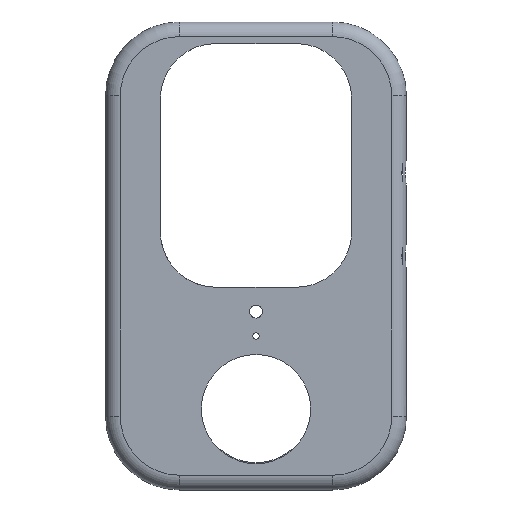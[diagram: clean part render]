
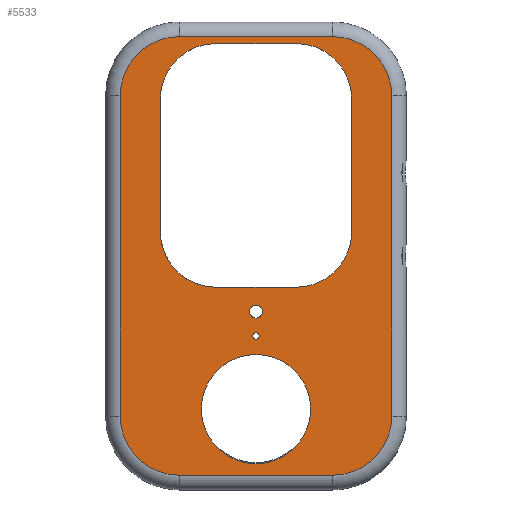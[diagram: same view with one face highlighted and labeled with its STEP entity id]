
A CAD part, top view. The second image highlights one B-rep face of the part: STEP entity #5533.
In plain terms, the highlighted planar face has unit normal (0, 0, 1).
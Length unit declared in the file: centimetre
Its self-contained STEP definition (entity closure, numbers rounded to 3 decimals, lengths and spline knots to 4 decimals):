
#23=FACE_BOUND('',#442,.T.);
#24=FACE_BOUND('',#443,.T.);
#25=FACE_BOUND('',#444,.T.);
#26=FACE_BOUND('',#445,.T.);
#161=FACE_OUTER_BOUND('',#441,.T.);
#441=EDGE_LOOP('',(#3705,#3706,#3707,#3708,#3709,#3710,#3711,#3712));
#442=EDGE_LOOP('',(#3713));
#443=EDGE_LOOP('',(#3714));
#444=EDGE_LOOP('',(#3715));
#445=EDGE_LOOP('',(#3716,#3717,#3718,#3719,#3720,#3721,#3722,#3723));
#742=CIRCLE('',#5846,1.7);
#743=CIRCLE('',#5850,1.7);
#745=CIRCLE('',#5853,1.7);
#746=CIRCLE('',#5854,1.7);
#747=CIRCLE('',#5855,1.57);
#748=CIRCLE('',#5856,0.09);
#749=CIRCLE('',#5857,0.185);
#750=CIRCLE('',#5858,1.6);
#751=CIRCLE('',#5859,1.6);
#752=CIRCLE('',#5860,1.6);
#753=CIRCLE('',#5861,1.6);
#950=LINE('',#7986,#1568);
#984=LINE('',#8099,#1602);
#985=LINE('',#8103,#1603);
#986=LINE('',#8106,#1604);
#987=LINE('',#8117,#1605);
#988=LINE('',#8121,#1606);
#989=LINE('',#8125,#1607);
#990=LINE('',#8128,#1608);
#1568=VECTOR('',#6350,0.1);
#1602=VECTOR('',#6446,0.1);
#1603=VECTOR('',#6449,0.1);
#1604=VECTOR('',#6452,0.1);
#1605=VECTOR('',#6461,0.1);
#1606=VECTOR('',#6464,0.1);
#1607=VECTOR('',#6467,0.1);
#1608=VECTOR('',#6470,0.1);
#2191=VERTEX_POINT('',#7983);
#2192=VERTEX_POINT('',#7985);
#2227=VERTEX_POINT('',#8084);
#2229=VERTEX_POINT('',#8094);
#2230=VERTEX_POINT('',#8098);
#2231=VERTEX_POINT('',#8100);
#2232=VERTEX_POINT('',#8102);
#2233=VERTEX_POINT('',#8104);
#2234=VERTEX_POINT('',#8107);
#2235=VERTEX_POINT('',#8109);
#2236=VERTEX_POINT('',#8111);
#2237=VERTEX_POINT('',#8113);
#2238=VERTEX_POINT('',#8114);
#2239=VERTEX_POINT('',#8116);
#2240=VERTEX_POINT('',#8118);
#2241=VERTEX_POINT('',#8120);
#2242=VERTEX_POINT('',#8122);
#2243=VERTEX_POINT('',#8124);
#2244=VERTEX_POINT('',#8126);
#2761=EDGE_CURVE('',#2191,#2192,#950,.T.);
#2808=EDGE_CURVE('',#2227,#2191,#742,.T.);
#2812=EDGE_CURVE('',#2192,#2229,#743,.T.);
#2814=EDGE_CURVE('',#2230,#2227,#984,.T.);
#2815=EDGE_CURVE('',#2231,#2230,#745,.T.);
#2816=EDGE_CURVE('',#2232,#2231,#985,.T.);
#2817=EDGE_CURVE('',#2233,#2232,#746,.T.);
#2818=EDGE_CURVE('',#2229,#2233,#986,.T.);
#2819=EDGE_CURVE('',#2234,#2234,#747,.T.);
#2820=EDGE_CURVE('',#2235,#2235,#748,.T.);
#2821=EDGE_CURVE('',#2236,#2236,#749,.T.);
#2822=EDGE_CURVE('',#2237,#2238,#750,.T.);
#2823=EDGE_CURVE('',#2237,#2239,#987,.T.);
#2824=EDGE_CURVE('',#2240,#2239,#751,.T.);
#2825=EDGE_CURVE('',#2241,#2240,#988,.T.);
#2826=EDGE_CURVE('',#2242,#2241,#752,.T.);
#2827=EDGE_CURVE('',#2243,#2242,#989,.T.);
#2828=EDGE_CURVE('',#2244,#2243,#753,.T.);
#2829=EDGE_CURVE('',#2244,#2238,#990,.T.);
#3705=ORIENTED_EDGE('',*,*,#2761,.F.);
#3706=ORIENTED_EDGE('',*,*,#2808,.F.);
#3707=ORIENTED_EDGE('',*,*,#2814,.F.);
#3708=ORIENTED_EDGE('',*,*,#2815,.F.);
#3709=ORIENTED_EDGE('',*,*,#2816,.F.);
#3710=ORIENTED_EDGE('',*,*,#2817,.F.);
#3711=ORIENTED_EDGE('',*,*,#2818,.F.);
#3712=ORIENTED_EDGE('',*,*,#2812,.F.);
#3713=ORIENTED_EDGE('',*,*,#2819,.T.);
#3714=ORIENTED_EDGE('',*,*,#2820,.T.);
#3715=ORIENTED_EDGE('',*,*,#2821,.T.);
#3716=ORIENTED_EDGE('',*,*,#2822,.F.);
#3717=ORIENTED_EDGE('',*,*,#2823,.T.);
#3718=ORIENTED_EDGE('',*,*,#2824,.F.);
#3719=ORIENTED_EDGE('',*,*,#2825,.F.);
#3720=ORIENTED_EDGE('',*,*,#2826,.F.);
#3721=ORIENTED_EDGE('',*,*,#2827,.F.);
#3722=ORIENTED_EDGE('',*,*,#2828,.F.);
#3723=ORIENTED_EDGE('',*,*,#2829,.T.);
#5332=PLANE('',#5852);
#5533=ADVANCED_FACE('',(#161,#23,#24,#25,#26),#5332,.T.);
#5846=AXIS2_PLACEMENT_3D('',#8086,#6429,#6430);
#5850=AXIS2_PLACEMENT_3D('',#8095,#6440,#6441);
#5852=AXIS2_PLACEMENT_3D('',#8097,#6444,#6445);
#5853=AXIS2_PLACEMENT_3D('',#8101,#6447,#6448);
#5854=AXIS2_PLACEMENT_3D('',#8105,#6450,#6451);
#5855=AXIS2_PLACEMENT_3D('',#8108,#6453,#6454);
#5856=AXIS2_PLACEMENT_3D('',#8110,#6455,#6456);
#5857=AXIS2_PLACEMENT_3D('',#8112,#6457,#6458);
#5858=AXIS2_PLACEMENT_3D('',#8115,#6459,#6460);
#5859=AXIS2_PLACEMENT_3D('',#8119,#6462,#6463);
#5860=AXIS2_PLACEMENT_3D('',#8123,#6465,#6466);
#5861=AXIS2_PLACEMENT_3D('',#8127,#6468,#6469);
#6350=DIRECTION('',(0.,1.,0.));
#6429=DIRECTION('center_axis',(0.,0.,-1.));
#6430=DIRECTION('ref_axis',(0.,-1.,0.));
#6440=DIRECTION('center_axis',(0.,0.,-1.));
#6441=DIRECTION('ref_axis',(-1.,0.,0.));
#6444=DIRECTION('center_axis',(0.,0.,1.));
#6445=DIRECTION('ref_axis',(1.,0.,0.));
#6446=DIRECTION('',(-1.,0.,0.));
#6447=DIRECTION('center_axis',(0.,0.,-1.));
#6448=DIRECTION('ref_axis',(1.,0.,0.));
#6449=DIRECTION('',(0.,-1.,0.));
#6450=DIRECTION('center_axis',(0.,0.,-1.));
#6451=DIRECTION('ref_axis',(0.,1.,0.));
#6452=DIRECTION('',(1.,0.,0.));
#6453=DIRECTION('center_axis',(0.,0.,-1.));
#6454=DIRECTION('ref_axis',(1.,0.,0.));
#6455=DIRECTION('center_axis',(0.,0.,-1.));
#6456=DIRECTION('ref_axis',(1.,0.,0.));
#6457=DIRECTION('center_axis',(0.,0.,-1.));
#6458=DIRECTION('ref_axis',(1.,0.,0.));
#6459=DIRECTION('center_axis',(0.,0.,1.));
#6460=DIRECTION('ref_axis',(-1.,0.,0.));
#6461=DIRECTION('',(0.,1.,0.));
#6462=DIRECTION('center_axis',(0.,0.,1.));
#6463=DIRECTION('ref_axis',(-1.,0.,0.));
#6464=DIRECTION('',(-1.,0.,0.));
#6465=DIRECTION('center_axis',(0.,0.,1.));
#6466=DIRECTION('ref_axis',(1.,0.,0.));
#6467=DIRECTION('',(0.,1.,0.));
#6468=DIRECTION('center_axis',(0.,0.,1.));
#6469=DIRECTION('ref_axis',(1.,0.,0.));
#6470=DIRECTION('',(-1.,0.,0.));
#7983=CARTESIAN_POINT('',(-3.9,-4.6,1.095));
#7985=CARTESIAN_POINT('',(-3.9,4.6,1.095));
#7986=CARTESIAN_POINT('',(-3.9,-4.6,1.095));
#8084=CARTESIAN_POINT('',(-2.2,-6.3,1.095));
#8086=CARTESIAN_POINT('Origin',(-2.2,-4.6,1.095));
#8094=CARTESIAN_POINT('',(-2.2,6.3,1.095));
#8095=CARTESIAN_POINT('Origin',(-2.2,4.6,1.095));
#8097=CARTESIAN_POINT('Origin',(-4.32,-6.72,1.095));
#8098=CARTESIAN_POINT('',(2.2,-6.3,1.095));
#8099=CARTESIAN_POINT('',(2.2,-6.3,1.095));
#8100=CARTESIAN_POINT('',(3.9,-4.6,1.095));
#8101=CARTESIAN_POINT('Origin',(2.2,-4.6,1.095));
#8102=CARTESIAN_POINT('',(3.9,4.6,1.095));
#8103=CARTESIAN_POINT('',(3.9,4.6,1.095));
#8104=CARTESIAN_POINT('',(2.2,6.3,1.095));
#8105=CARTESIAN_POINT('Origin',(2.2,4.6,1.095));
#8106=CARTESIAN_POINT('',(-2.2,6.3,1.095));
#8107=CARTESIAN_POINT('',(-1.57,-4.4,1.095));
#8108=CARTESIAN_POINT('Origin',(0.,-4.4,1.095));
#8109=CARTESIAN_POINT('',(-0.09,-2.3,1.095));
#8110=CARTESIAN_POINT('Origin',(0.,-2.3,1.095));
#8111=CARTESIAN_POINT('',(-0.185,-1.6,1.095));
#8112=CARTESIAN_POINT('Origin',(0.,-1.6,1.095));
#8113=CARTESIAN_POINT('',(-2.75,0.7,1.095));
#8114=CARTESIAN_POINT('',(-1.15,-0.9,1.095));
#8115=CARTESIAN_POINT('Origin',(-1.15,0.7,1.095));
#8116=CARTESIAN_POINT('',(-2.75,4.5,1.095));
#8117=CARTESIAN_POINT('',(-2.75,-3.81,1.095));
#8118=CARTESIAN_POINT('',(-1.15,6.1,1.095));
#8119=CARTESIAN_POINT('Origin',(-1.15,4.5,1.095));
#8120=CARTESIAN_POINT('',(1.15,6.1,1.095));
#8121=CARTESIAN_POINT('',(-3.535,6.1,1.095));
#8122=CARTESIAN_POINT('',(2.75,4.5,1.095));
#8123=CARTESIAN_POINT('Origin',(1.15,4.5,1.095));
#8124=CARTESIAN_POINT('',(2.75,0.7,1.095));
#8125=CARTESIAN_POINT('',(2.75,-3.81,1.095));
#8126=CARTESIAN_POINT('',(1.15,-0.9,1.095));
#8127=CARTESIAN_POINT('Origin',(1.15,0.7,1.095));
#8128=CARTESIAN_POINT('',(-3.535,-0.9,1.095));
